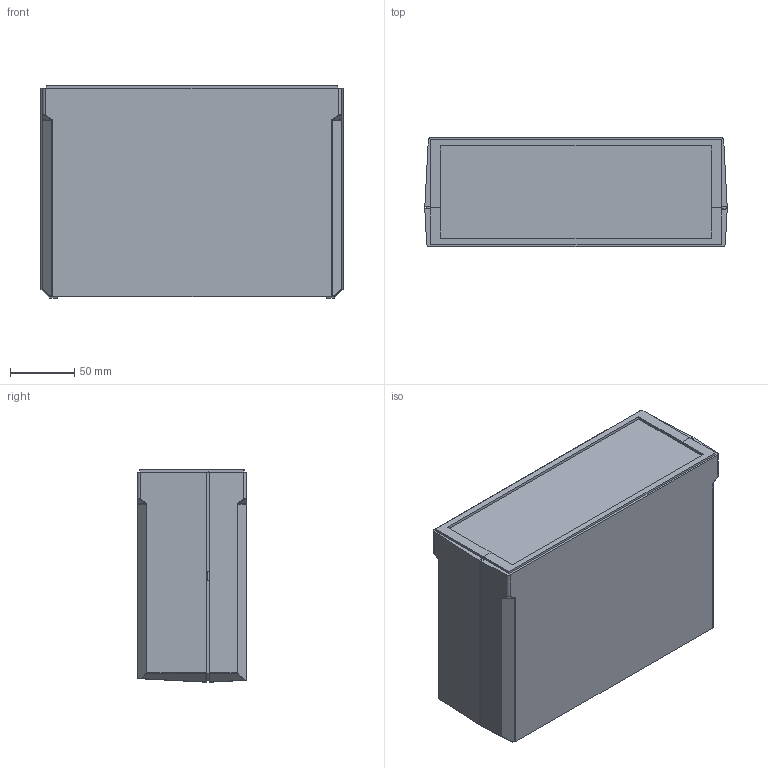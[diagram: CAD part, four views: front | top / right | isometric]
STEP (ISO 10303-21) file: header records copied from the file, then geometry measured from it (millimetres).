
FILE_DESCRIPTION (( 'STEP AP214' ), '1' );
FILE_NAME ('WTL127-TW.STEP', '2020-04-27T21:10:08', ( 'Rudy' ), ( '' ), 'SwSTEP 2.0', 'SolidWorks 2014', '' );
FILE_SCHEMA (( 'AUTOMOTIVE_DESIGN' ));
Length unit declared in the file: inch
Products named in the file (4): WTL 127 Endplate; WTL-high; WTL-short; WTL127-TW
Assembly tree (4 placements, depth 2):
  WTL127-TW
    WTL-short
    WTL-high
    WTL 127 Endplate  x2
Bounding box: 234.86 x 84.91 x 165.05 mm (x, y, z)
Volume: 392448.2 mm3; surface area: 308536.4 mm2
Topology: 4 solids, 4 shells, 915 faces, 2413 edges, 1564 vertices
Faces by surface type: plane 636, cylinder 185, cone 64, sphere 16, bspline 14
Entity records: 28031 total; most frequent: CARTESIAN_POINT 5445, ORIENTED_EDGE 4790, DIRECTION 4451, EDGE_CURVE 2395, VECTOR 1899, LINE 1899, VERTEX_POINT 1554, AXIS2_PLACEMENT_3D 1276
